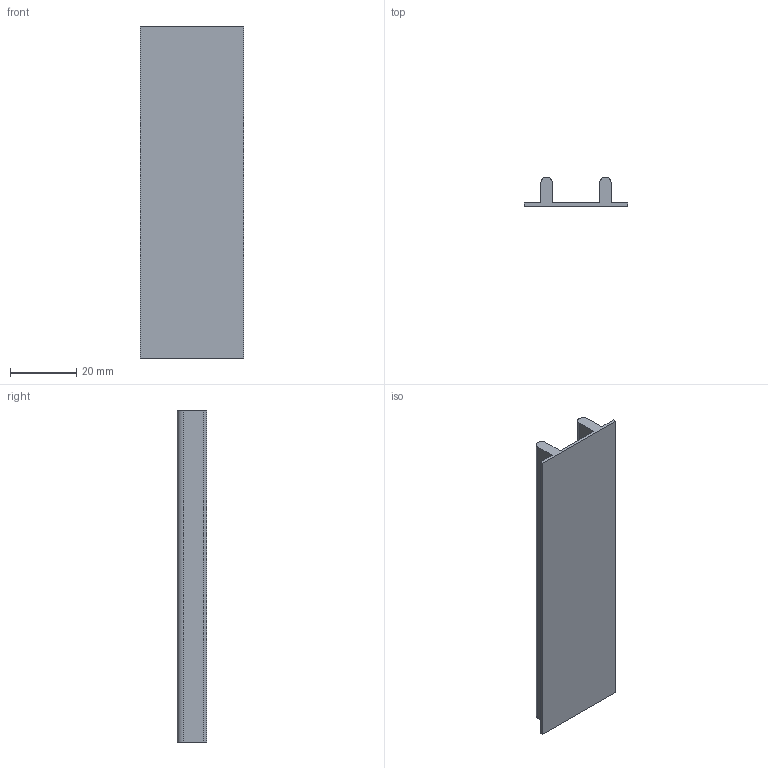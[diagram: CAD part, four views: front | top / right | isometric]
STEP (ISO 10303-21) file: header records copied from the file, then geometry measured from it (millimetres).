
FILE_DESCRIPTION(/* description */ (''),/* implementation_level */ '2;1');
FILE_NAME(/* name */ 'C:\Users\Owner\Documents\硯聰\Inv材料庫-3D新型錄\拉門配件\2溝軌道.stp',/* time_stamp */ '2019-03-11T11:21:47+08:00',/* author */ ('Owner'),/* organization */ (''),/* preprocessor_version */ 'ST-DEVELOPER v16.1',/* originating_system */ 'Autodesk Inventor 2016',/* authorisation */ '');
FILE_SCHEMA (('AUTOMOTIVE_DESIGN { 1 0 10303 214 3 1 1 }'));
Length unit declared in the file: millimetre
Products named in the file (1): 零件67
Bounding box: 31.1 x 8.8 x 100 mm (x, y, z)
Volume: 8165.9 mm3; surface area: 9411.5 mm2
Topology: 1 solids, 1 shells, 14 faces, 36 edges, 24 vertices
Faces by surface type: plane 12, cylinder 2
Entity records: 448 total; most frequent: CARTESIAN_POINT 75, ORIENTED_EDGE 72, DIRECTION 70, EDGE_CURVE 36, LINE 32, VECTOR 32, VERTEX_POINT 24, AXIS2_PLACEMENT_3D 19
